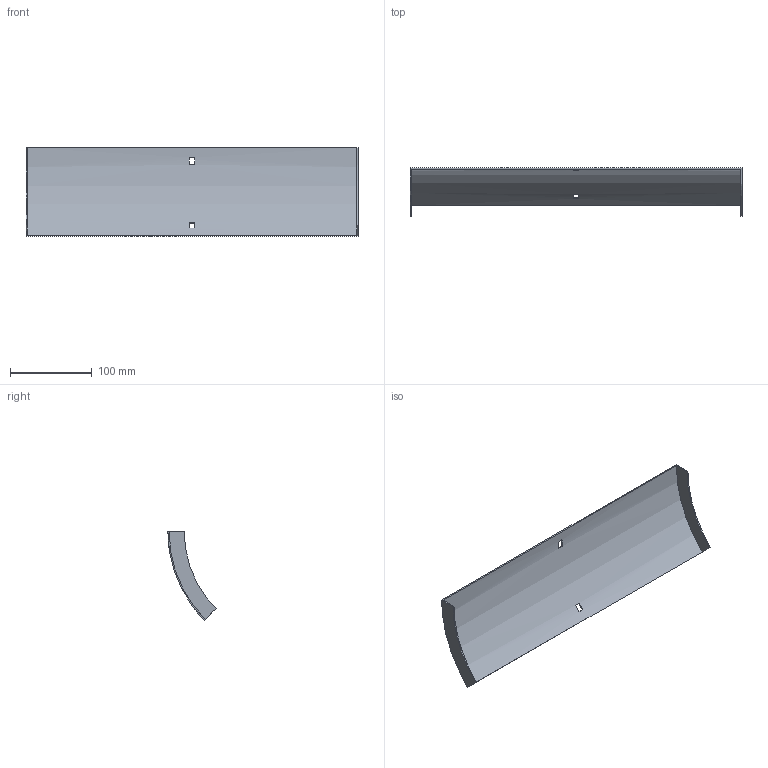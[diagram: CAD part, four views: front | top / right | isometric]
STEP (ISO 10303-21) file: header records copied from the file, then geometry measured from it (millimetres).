
FILE_DESCRIPTION (( 'STEP AP214' ), '1' );
FILE_NAME ('34N1B400.step', '2025-02-21T09:15:02', ( '' ), ( '' ), 'SwSTEP 2.0', 'SolidWorks 2023', '' );
FILE_SCHEMA (( 'AUTOMOTIVE_DESIGN' ));
Length unit declared in the file: millimetre
Products named in the file (1): 34N1B400
Bounding box: 407 x 59.1 x 108.54 mm (x, y, z)
Volume: 79287.3 mm3; surface area: 107458.3 mm2
Topology: 1 solids, 1 shells, 18 faces, 48 edges, 32 vertices
Faces by surface type: plane 14, cylinder 4
Entity records: 599 total; most frequent: DIRECTION 102, CARTESIAN_POINT 99, ORIENTED_EDGE 96, EDGE_CURVE 48, AXIS2_PLACEMENT_3D 35, LINE 32, VERTEX_POINT 32, VECTOR 32
